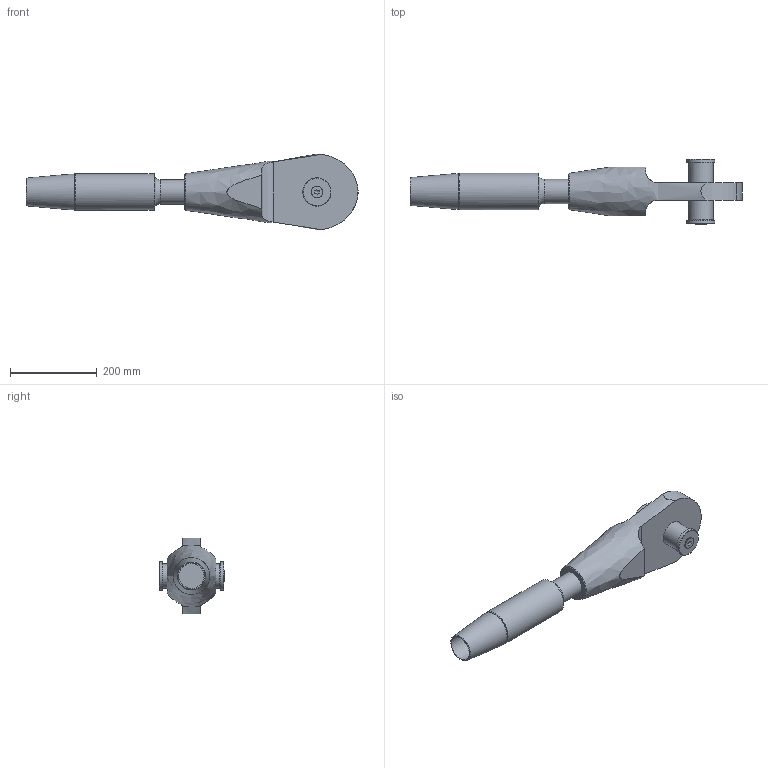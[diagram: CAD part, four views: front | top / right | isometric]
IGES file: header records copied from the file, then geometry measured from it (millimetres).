
Global section: file name: 520-056-OES-ADA; native system: Autodesk Inventor 2020; preprocessor: unknown; author: Administrator; date: 20201007.154031; units: millimetre
Bounding box: 767.45 x 151.4 x 175.17 mm (x, y, z)
Volume: 5038929.9 mm3; surface area: 343799 mm2
Topology: 6 solids, 6 shells, 56 faces, 135 edges, 93 vertices
Faces by surface type: bspline 56
